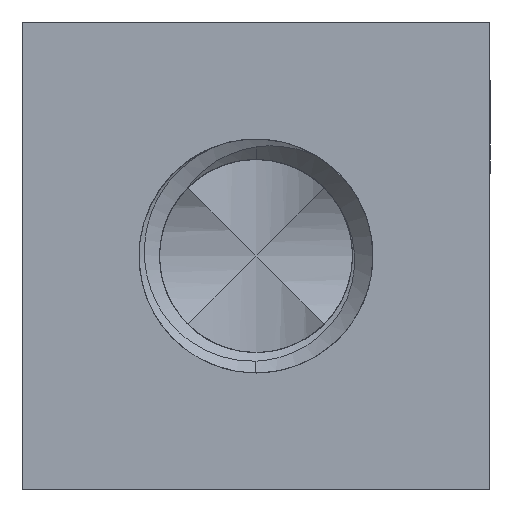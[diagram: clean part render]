
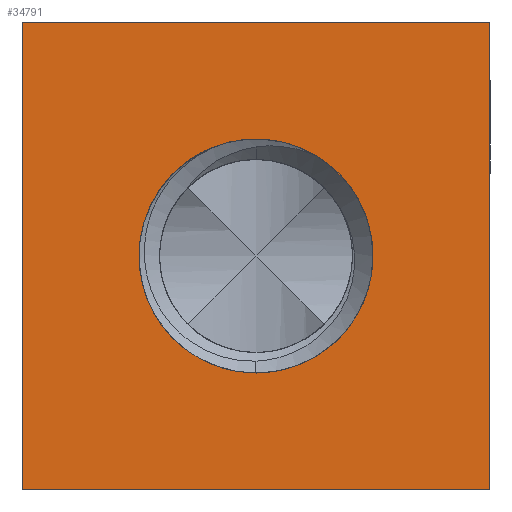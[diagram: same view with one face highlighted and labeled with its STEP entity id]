
A CAD part, front view. The second image highlights one B-rep face of the part: STEP entity #34791.
In plain terms, the highlighted planar face has unit normal (0, -1, 0).
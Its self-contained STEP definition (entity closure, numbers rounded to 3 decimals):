
#1016 = CARTESIAN_POINT ( 'NONE',  ( 4., -4., 0. ) ) ;
#1126 = PLANE ( 'NONE',  #21129 ) ;
#2258 = VERTEX_POINT ( 'NONE', #14237 ) ;
#2324 = CARTESIAN_POINT ( 'NONE',  ( 1.013, -4., 1.724 ) ) ;
#2438 = FACE_BOUND ( 'NONE', #24851, .T. ) ;
#5347 = DIRECTION ( 'NONE',  ( 1., 0., 0. ) ) ;
#7114 = CIRCLE ( 'NONE', #22825, 2. ) ;
#8068 = CARTESIAN_POINT ( 'NONE',  ( 0., -4., -4. ) ) ;
#9103 = AXIS2_PLACEMENT_3D ( 'NONE', #27219, #46099, #30246 ) ;
#9982 = VERTEX_POINT ( 'NONE', #18255 ) ;
#10177 = EDGE_CURVE ( 'NONE', #47019, #20056, #47823, .T. ) ;
#11026 = ORIENTED_EDGE ( 'NONE', *, *, #10177, .T. ) ;
#11753 = CARTESIAN_POINT ( 'NONE',  ( 0., -4., 0. ) ) ;
#12697 = CARTESIAN_POINT ( 'NONE',  ( -4., -4., 0. ) ) ;
#12929 = ORIENTED_EDGE ( 'NONE', *, *, #46679, .F. ) ;
#12965 = VECTOR ( 'NONE', #5347, 1000. ) ;
#13296 = ORIENTED_EDGE ( 'NONE', *, *, #38745, .T. ) ;
#14174 = VECTOR ( 'NONE', #31867, 1000. ) ;
#14237 = CARTESIAN_POINT ( 'NONE',  ( -4., -4., 4. ) ) ;
#17149 = CIRCLE ( 'NONE', #19625, 2. ) ;
#18255 = CARTESIAN_POINT ( 'NONE',  ( 4., -4., 4. ) ) ;
#18598 = CARTESIAN_POINT ( 'NONE',  ( -0.519, -4., 1.931 ) ) ;
#19419 = VERTEX_POINT ( 'NONE', #47108 ) ;
#19625 = AXIS2_PLACEMENT_3D ( 'NONE', #44560, #29040, #24720 ) ;
#19736 = DIRECTION ( 'NONE',  ( 0., 1., 0. ) ) ;
#20056 = VERTEX_POINT ( 'NONE', #40994 ) ;
#20189 = CARTESIAN_POINT ( 'NONE',  ( 0., -4., 0. ) ) ;
#20608 = EDGE_CURVE ( 'NONE', #19419, #9982, #38553, .T. ) ;
#20742 = VERTEX_POINT ( 'NONE', #23935 ) ;
#21129 = AXIS2_PLACEMENT_3D ( 'NONE', #20189, #31700, #24204 ) ;
#22825 = AXIS2_PLACEMENT_3D ( 'NONE', #11753, #19736, #46307 ) ;
#23935 = CARTESIAN_POINT ( 'NONE',  ( -4., -4., -4. ) ) ;
#24204 = DIRECTION ( 'NONE',  ( 0., 0., 1. ) ) ;
#24720 = DIRECTION ( 'NONE',  ( 0., 0., 1. ) ) ;
#24851 = EDGE_LOOP ( 'NONE', ( #11026, #13296, #35705 ) ) ;
#25468 = EDGE_CURVE ( 'NONE', #20742, #19419, #26299, .T. ) ;
#25472 = EDGE_LOOP ( 'NONE', ( #12929, #45052, #30637, #34195 ) ) ;
#26299 = LINE ( 'NONE', #8068, #39964 ) ;
#27219 = CARTESIAN_POINT ( 'NONE',  ( 0., -4., 0. ) ) ;
#28883 = VERTEX_POINT ( 'NONE', #18598 ) ;
#29040 = DIRECTION ( 'NONE',  ( 0., 1., 0. ) ) ;
#30246 = DIRECTION ( 'NONE',  ( 0., 0., 1. ) ) ;
#30637 = ORIENTED_EDGE ( 'NONE', *, *, #25468, .T. ) ;
#31700 = DIRECTION ( 'NONE',  ( 0., 1., 0. ) ) ;
#31867 = DIRECTION ( 'NONE',  ( 0., 0., 1. ) ) ;
#34195 = ORIENTED_EDGE ( 'NONE', *, *, #20608, .T. ) ;
#34791 = ADVANCED_FACE ( 'NONE', ( #2438, #41851 ), #1126, .F. ) ;
#35010 = LINE ( 'NONE', #12697, #14174 ) ;
#35705 = ORIENTED_EDGE ( 'NONE', *, *, #47251, .T. ) ;
#38553 = LINE ( 'NONE', #1016, #42719 ) ;
#38598 = DIRECTION ( 'NONE',  ( 1., 0., 0. ) ) ;
#38745 = EDGE_CURVE ( 'NONE', #20056, #28883, #7114, .T. ) ;
#39964 = VECTOR ( 'NONE', #38598, 1000. ) ;
#40994 = CARTESIAN_POINT ( 'NONE',  ( 0., -4., -2. ) ) ;
#41851 = FACE_OUTER_BOUND ( 'NONE', #25472, .T. ) ;
#42282 = DIRECTION ( 'NONE',  ( 0., 0., 1. ) ) ;
#42719 = VECTOR ( 'NONE', #42282, 1000. ) ;
#43387 = CARTESIAN_POINT ( 'NONE',  ( 0., -4., 4. ) ) ;
#43402 = LINE ( 'NONE', #43387, #12965 ) ;
#44560 = CARTESIAN_POINT ( 'NONE',  ( 0., -4., 0. ) ) ;
#45052 = ORIENTED_EDGE ( 'NONE', *, *, #46819, .F. ) ;
#46099 = DIRECTION ( 'NONE',  ( 0., 1., 0. ) ) ;
#46307 = DIRECTION ( 'NONE',  ( 0., 0., 1. ) ) ;
#46679 = EDGE_CURVE ( 'NONE', #2258, #9982, #43402, .T. ) ;
#46819 = EDGE_CURVE ( 'NONE', #20742, #2258, #35010, .T. ) ;
#47019 = VERTEX_POINT ( 'NONE', #2324 ) ;
#47108 = CARTESIAN_POINT ( 'NONE',  ( 4., -4., -4. ) ) ;
#47251 = EDGE_CURVE ( 'NONE', #28883, #47019, #17149, .T. ) ;
#47823 = CIRCLE ( 'NONE', #9103, 2. ) ;
